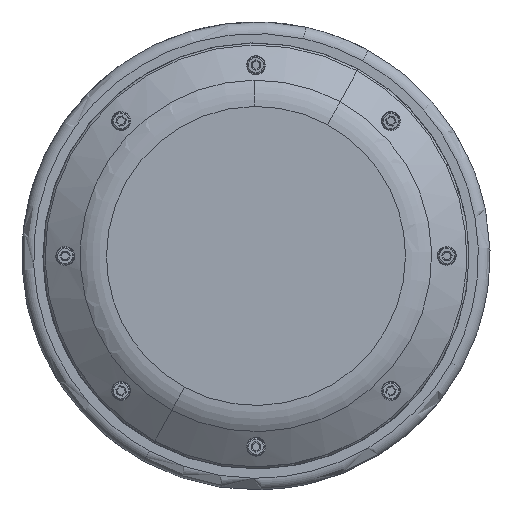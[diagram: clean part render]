
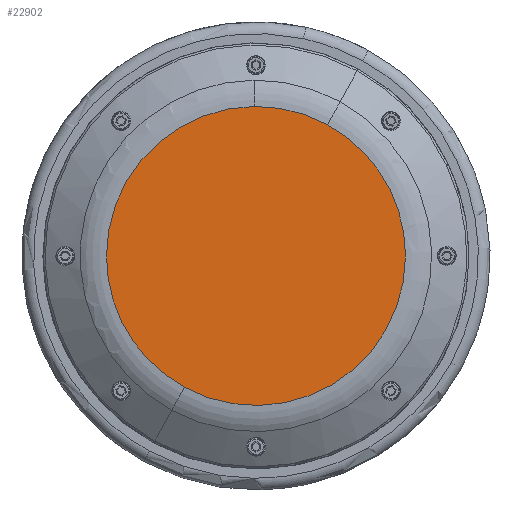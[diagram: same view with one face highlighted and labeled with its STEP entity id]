
A CAD part, front view. The second image highlights one B-rep face of the part: STEP entity #22902.
In plain terms, the highlighted planar face has unit normal (0, -1, 0).
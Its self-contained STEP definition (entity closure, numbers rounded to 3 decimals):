
#22811=CARTESIAN_POINT('Vertex',(-0.708,-15.5,63.869)) ;
#22818=CARTESIAN_POINT('Vertex',(-30.622,-15.5,-56.054)) ;
#22821=CARTESIAN_POINT('Axis2P3D Location',(0.,-15.5,0.)) ;
#22825=CARTESIAN_POINT('Vertex',(-63.873,-15.5,0.)) ;
#22828=CARTESIAN_POINT('Axis2P3D Location',(0.,-15.5,0.)) ;
#22846=CARTESIAN_POINT('Axis2P3D Location',(0.,-15.5,0.)) ;
#22850=CARTESIAN_POINT('Vertex',(30.622,-15.5,56.054)) ;
#22870=CARTESIAN_POINT('Axis2P3D Location',(0.,-15.5,0.)) ;
#22874=CARTESIAN_POINT('Vertex',(63.873,-15.5,0.)) ;
#22877=CARTESIAN_POINT('Axis2P3D Location',(0.,-15.5,0.)) ;
#22890=CARTESIAN_POINT('Axis2P3D Location',(0.,-15.5,0.)) ;
#22822=DIRECTION('Axis2P3D Direction',(0.,1.,0.)) ;
#22829=DIRECTION('Axis2P3D Direction',(0.,1.,0.)) ;
#22847=DIRECTION('Axis2P3D Direction',(0.,1.,0.)) ;
#22871=DIRECTION('Axis2P3D Direction',(-0.,1.,0.)) ;
#22878=DIRECTION('Axis2P3D Direction',(-0.,1.,0.)) ;
#22891=DIRECTION('Axis2P3D Direction',(-0.,1.,0.)) ;
#22892=DIRECTION('Axis2P3D XDirection',(1.,0.,0.)) ;
#22823=AXIS2_PLACEMENT_3D('Circle Axis2P3D',#22821,#22822,$) ;
#22830=AXIS2_PLACEMENT_3D('Circle Axis2P3D',#22828,#22829,$) ;
#22848=AXIS2_PLACEMENT_3D('Circle Axis2P3D',#22846,#22847,$) ;
#22872=AXIS2_PLACEMENT_3D('Circle Axis2P3D',#22870,#22871,$) ;
#22879=AXIS2_PLACEMENT_3D('Circle Axis2P3D',#22877,#22878,$) ;
#22893=AXIS2_PLACEMENT_3D('Plane Axis2P3D',#22890,#22891,#22892) ;
#22896=ORIENTED_EDGE('',*,*,#22852,.T.) ;
#22897=ORIENTED_EDGE('',*,*,#22832,.T.) ;
#22898=ORIENTED_EDGE('',*,*,#22827,.T.) ;
#22899=ORIENTED_EDGE('',*,*,#22881,.T.) ;
#22900=ORIENTED_EDGE('',*,*,#22876,.T.) ;
#22902=ADVANCED_FACE('MANIFOLD_SOLID_BREP #20418',(#22901),#22894,.F.) ;
#22824=CIRCLE('generated circle',#22823,63.873) ;
#22831=CIRCLE('generated circle',#22830,63.873) ;
#22849=CIRCLE('generated circle',#22848,63.873) ;
#22873=CIRCLE('generated circle',#22872,63.873) ;
#22880=CIRCLE('generated circle',#22879,63.873) ;
#22827=EDGE_CURVE('',#22826,#22819,#22824,.F.) ;
#22832=EDGE_CURVE('',#22812,#22826,#22831,.F.) ;
#22852=EDGE_CURVE('',#22851,#22812,#22849,.F.) ;
#22876=EDGE_CURVE('',#22875,#22851,#22873,.F.) ;
#22881=EDGE_CURVE('',#22819,#22875,#22880,.F.) ;
#22895=EDGE_LOOP('',(#22896,#22897,#22898,#22899,#22900)) ;
#22901=FACE_OUTER_BOUND('',#22895,.T.) ;
#22894=PLANE('Plane',#22893) ;
#22812=VERTEX_POINT('',#22811) ;
#22819=VERTEX_POINT('',#22818) ;
#22826=VERTEX_POINT('',#22825) ;
#22851=VERTEX_POINT('',#22850) ;
#22875=VERTEX_POINT('',#22874) ;
